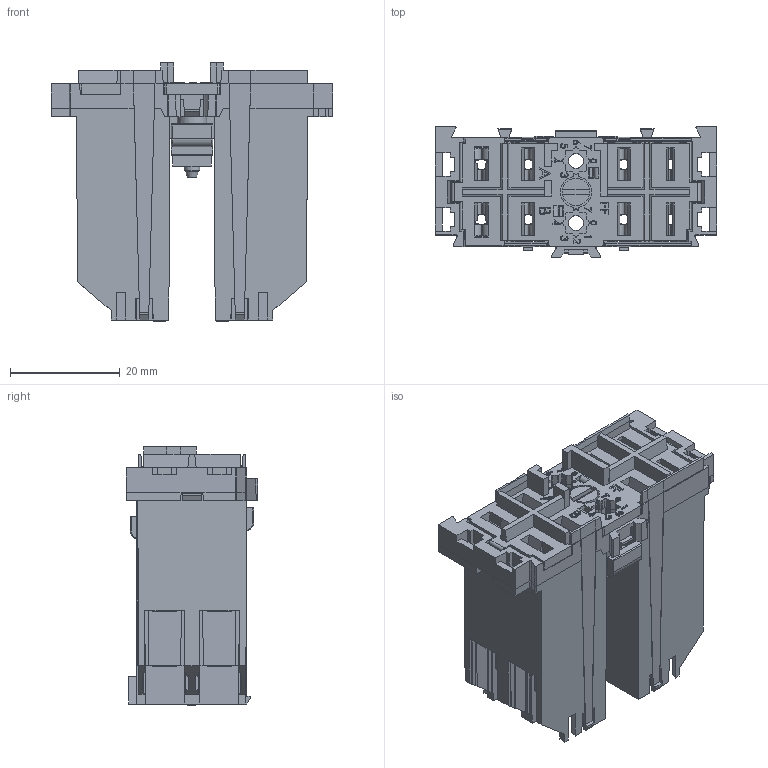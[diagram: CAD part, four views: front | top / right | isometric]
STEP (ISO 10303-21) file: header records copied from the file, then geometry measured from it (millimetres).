
FILE_DESCRIPTION (( 'STEP AP203' ), '1' );
FILE_NAME ('705750021_D Base DN TR2C OP FF.STEP', '2018-05-02T07:48:26', ( 'arteche' ), ( '' ), 'SwSTEP 2.0', 'SolidWorks 2017', '' );
FILE_SCHEMA (( 'CONFIG_CONTROL_DESIGN' ));
Length unit declared in the file: millimetre
Products named in the file (10): 418641510 BASE TR SUPERIOR OP FF_BASE TR SUPERIOR PLUS; XXXXXXXXX ALMA BASE DN TR2C OP FF; 270620248 TORNILLO CILINDRICO A M3x15 DIN-84 ZN; 567533344 SOPORTE FIJACION BASES TRASERAS PLUS_SOPORTE FIJACION BASES TRASERAS PLUS; 584010045 TUERCA CUADRADA 7X7X2 M3_TUERCA CUADRADA 7X7X2 M.3; 438351645_CAJA EMBALAJE 102X120X45 BASES; 418641619 BASE TR INFERIOR OP FF; 705750021_D Base DN TR2C OP FF; 527570741 PINZA TR2C LARGA PLUS FASTON; 527570642 PINZA TR2C CORTA PLUS FASTON
Assembly tree (15 placements, depth 3):
  438351645_CAJA EMBALAJE 102X120X45 BASES
  705750021_D Base DN TR2C OP FF
    XXXXXXXXX ALMA BASE DN TR2C OP FF
      418641619 BASE TR INFERIOR OP FF
      527570741 PINZA TR2C LARGA PLUS FASTON  x4
      527570642 PINZA TR2C CORTA PLUS FASTON  x4
      418641510 BASE TR SUPERIOR OP FF_BASE TR SUPERIOR PLUS
    270620248 TORNILLO CILINDRICO A M3x15 DIN-84 ZN
    567533344 SOPORTE FIJACION BASES TRASERAS PLUS_SOPORTE FIJACION BASES TRASERAS PLUS  x2
    584010045 TUERCA CUADRADA 7X7X2 M3_TUERCA CUADRADA 7X7X2 M.3
Bounding box: 51.2 x 23.91 x 47 mm (x, y, z)
Volume: 15061.3 mm3; surface area: 29786.1 mm2
Topology: 14 solids, 14 shells, 3670 faces, 9513 edges, 5962 vertices
Faces by surface type: plane 2551, bspline 639, cylinder 459, cone 17, torus 4
Full cylindrical faces by diameter (mm): 1.35 x16, 1.8 x2, 2.8 x1, 2.985 x1, 3 x1, 4.4 x1, 5 x1
Entity records: 99470 total; most frequent: CARTESIAN_POINT 34455, ORIENTED_EDGE 14600, DIRECTION 10716, EDGE_CURVE 7300, VECTOR 5550, LINE 5550, VERTEX_POINT 4735, EDGE_LOOP 2873
